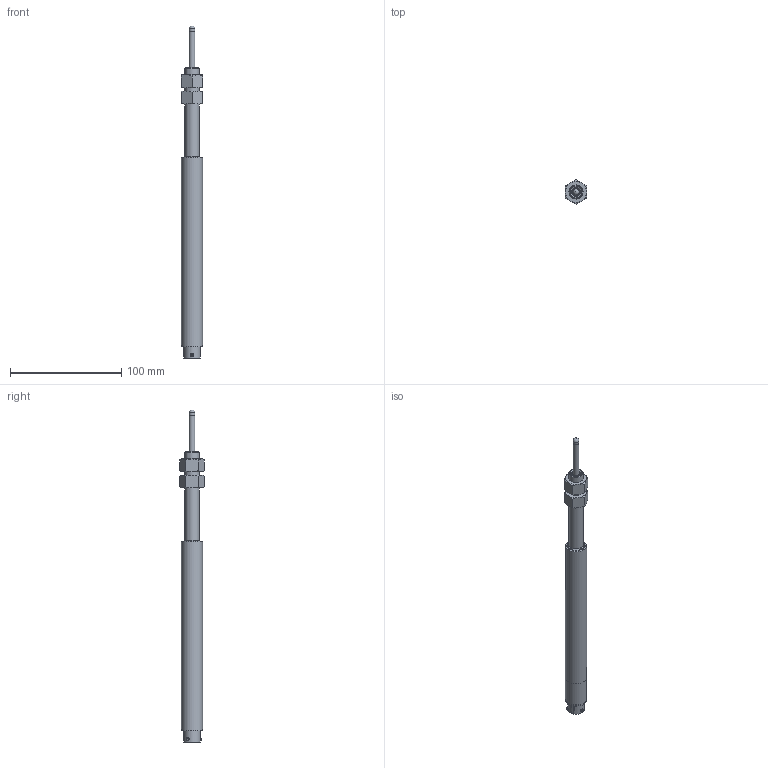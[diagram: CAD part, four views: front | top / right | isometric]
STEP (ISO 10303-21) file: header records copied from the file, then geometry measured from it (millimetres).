
FILE_DESCRIPTION(/* description */ (''),/* implementation_level */ '2;1');
FILE_NAME(/* name */ 'GH-750-E-1000 ASS''Y.iam.stp',/* time_stamp */ '2023-11-10T12:29:57-05:00',/* author */ ('Justin'),/* organization */ (''),/* preprocessor_version */ 'ST-DEVELOPER v20',/* originating_system */ 'Autodesk Inventor 2024',/* authorisation */ '');
FILE_SCHEMA (('AUTOMOTIVE_DESIGN { 1 0 10303 214 3 1 1 }'));
Length unit declared in the file: inch
Products named in the file (4): GH-750-D-500 ASS'Y; GH-750-D-500 Housing_SW; GH-750-D-500 SHAFT_SW; AS 2465 - 1/2  UNF
Assembly tree (4 placements, depth 2):
  GH-750-D-500 ASS'Y
    GH-750-D-500 Housing_SW
    GH-750-D-500 SHAFT_SW
    AS 2465 - 1/2  UNF  x2
Bounding box: 19.05 x 22 x 298.73 mm (x, y, z)
Volume: 31267.2 mm3; surface area: 33371.6 mm2
Topology: 12 solids, 12 shells, 184 faces, 367 edges, 234 vertices
Faces by surface type: plane 75, cylinder 59, cone 43, torus 4, bspline 2, sphere 1
Full cylindrical faces by diameter (mm): 0.762 x12, 2.032 x3, 2.845 x3, 3.048 x3, 4.826 x2, 5.334 x4, 5.397 x1, 7.671 x2, 7.874 x1, 11.328 x2, 12.7 x1, 13.208 x1, 14.986 x1, 15.748 x2, 16.51 x1, 17.069 x1, 18.034 x1, 18.415 x3, 19.05 x1
Entity records: 4890 total; most frequent: CARTESIAN_POINT 1116, DIRECTION 781, ORIENTED_EDGE 630, AXIS2_PLACEMENT_3D 332, EDGE_CURVE 315, VERTEX_POINT 205, EDGE_LOOP 204, CIRCLE 165
